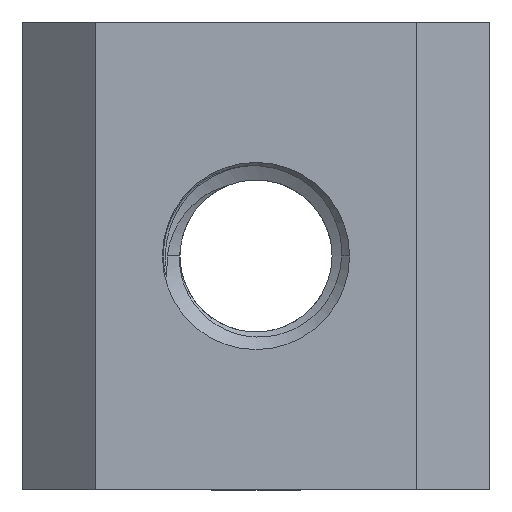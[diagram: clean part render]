
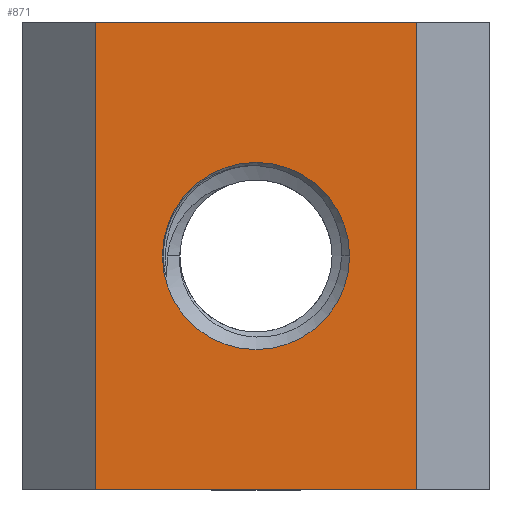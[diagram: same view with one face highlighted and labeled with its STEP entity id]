
A CAD part, front view. The second image highlights one B-rep face of the part: STEP entity #871.
In plain terms, the highlighted planar face has unit normal (0, -1, 0).
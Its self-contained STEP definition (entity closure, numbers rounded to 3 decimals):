
#117 = CARTESIAN_POINT ( 'NONE',  ( -5.5, 0., 8. ) ) ;
#145 = ORIENTED_EDGE ( 'NONE', *, *, #2208, .T. ) ;
#166 = DIRECTION ( 'NONE',  ( 0., 1., 0. ) ) ;
#198 = AXIS2_PLACEMENT_3D ( 'NONE', #3979, #166, #2613 ) ;
#398 = EDGE_CURVE ( 'NONE', #2157, #2917, #3462, .T. ) ;
#467 = VECTOR ( 'NONE', #2908, 1000. ) ;
#599 = FACE_BOUND ( 'NONE', #1884, .T. ) ;
#616 = AXIS2_PLACEMENT_3D ( 'NONE', #4007, #4337, #1598 ) ;
#871 = ADVANCED_FACE ( 'NONE', ( #599, #2667 ), #3319, .F. ) ;
#887 = CARTESIAN_POINT ( 'NONE',  ( -5.5, 0., 8. ) ) ;
#932 = DIRECTION ( 'NONE',  ( 1., 0., 0. ) ) ;
#980 = EDGE_LOOP ( 'NONE', ( #3598, #2278, #3133, #1069 ) ) ;
#1027 = VERTEX_POINT ( 'NONE', #4108 ) ;
#1069 = ORIENTED_EDGE ( 'NONE', *, *, #398, .T. ) ;
#1333 = EDGE_CURVE ( 'NONE', #2157, #1925, #1595, .T. ) ;
#1361 = EDGE_CURVE ( 'NONE', #2917, #1617, #3938, .T. ) ;
#1422 = DIRECTION ( 'NONE',  ( 0., 1., 0. ) ) ;
#1552 = CARTESIAN_POINT ( 'NONE',  ( -5.5, 0., -8. ) ) ;
#1595 = LINE ( 'NONE', #887, #467 ) ;
#1598 = DIRECTION ( 'NONE',  ( 0., 0., 1. ) ) ;
#1617 = VERTEX_POINT ( 'NONE', #3671 ) ;
#1632 = CIRCLE ( 'NONE', #198, 3.2 ) ;
#1884 = EDGE_LOOP ( 'NONE', ( #145, #3461 ) ) ;
#1889 = VECTOR ( 'NONE', #932, 1000. ) ;
#1925 = VERTEX_POINT ( 'NONE', #3539 ) ;
#2157 = VERTEX_POINT ( 'NONE', #2903 ) ;
#2208 = EDGE_CURVE ( 'NONE', #1027, #2507, #1632, .T. ) ;
#2278 = ORIENTED_EDGE ( 'NONE', *, *, #3381, .F. ) ;
#2343 = CIRCLE ( 'NONE', #3191, 3.2 ) ;
#2507 = VERTEX_POINT ( 'NONE', #3930 ) ;
#2613 = DIRECTION ( 'NONE',  ( 0., 0., 1. ) ) ;
#2667 = FACE_OUTER_BOUND ( 'NONE', #980, .T. ) ;
#2903 = CARTESIAN_POINT ( 'NONE',  ( -5.5, 0., 8. ) ) ;
#2908 = DIRECTION ( 'NONE',  ( 1., 0., 0. ) ) ;
#2917 = VERTEX_POINT ( 'NONE', #1552 ) ;
#2960 = CARTESIAN_POINT ( 'NONE',  ( 5.5, 0., 8. ) ) ;
#3070 = VECTOR ( 'NONE', #4195, 1000. ) ;
#3133 = ORIENTED_EDGE ( 'NONE', *, *, #1333, .F. ) ;
#3184 = VECTOR ( 'NONE', #4301, 1000. ) ;
#3191 = AXIS2_PLACEMENT_3D ( 'NONE', #3806, #1422, #3526 ) ;
#3297 = CARTESIAN_POINT ( 'NONE',  ( -5.5, 0., -8. ) ) ;
#3319 = PLANE ( 'NONE',  #616 ) ;
#3381 = EDGE_CURVE ( 'NONE', #1925, #1617, #4259, .T. ) ;
#3461 = ORIENTED_EDGE ( 'NONE', *, *, #4359, .T. ) ;
#3462 = LINE ( 'NONE', #117, #3070 ) ;
#3526 = DIRECTION ( 'NONE',  ( 0., 0., 1. ) ) ;
#3539 = CARTESIAN_POINT ( 'NONE',  ( 5.5, 0., 8. ) ) ;
#3598 = ORIENTED_EDGE ( 'NONE', *, *, #1361, .T. ) ;
#3671 = CARTESIAN_POINT ( 'NONE',  ( 5.5, 0., -8. ) ) ;
#3806 = CARTESIAN_POINT ( 'NONE',  ( 0., 0., 0. ) ) ;
#3930 = CARTESIAN_POINT ( 'NONE',  ( -3.2, 0., 0. ) ) ;
#3938 = LINE ( 'NONE', #3297, #1889 ) ;
#3979 = CARTESIAN_POINT ( 'NONE',  ( 0., 0., 0. ) ) ;
#4007 = CARTESIAN_POINT ( 'NONE',  ( -5.5, 0., 8. ) ) ;
#4108 = CARTESIAN_POINT ( 'NONE',  ( 3.2, 0., 0. ) ) ;
#4195 = DIRECTION ( 'NONE',  ( 0., 0., -1. ) ) ;
#4259 = LINE ( 'NONE', #2960, #3184 ) ;
#4301 = DIRECTION ( 'NONE',  ( 0., 0., -1. ) ) ;
#4337 = DIRECTION ( 'NONE',  ( 0., 1., 0. ) ) ;
#4359 = EDGE_CURVE ( 'NONE', #2507, #1027, #2343, .T. ) ;
